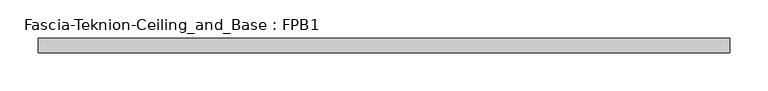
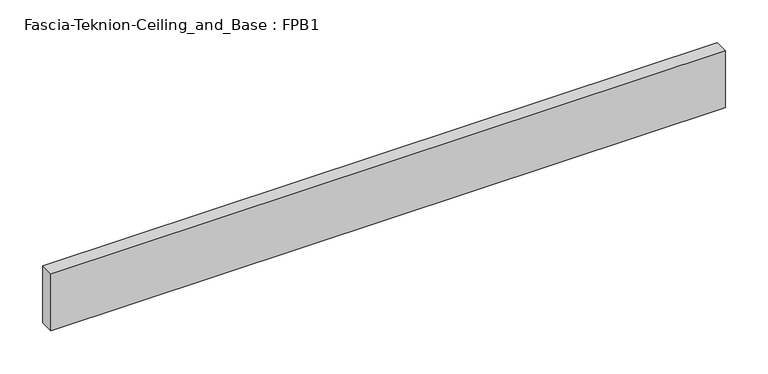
"""IFC4 building model written with IfcOpenShell, lengths in millimetres: proxy geometry, Fascia-Teknion-Ceiling_and_Base : FPB1."""

from ifc_helpers import new_model, si_unit, origin, origin_with_axes, place, context, project, spatial, polyline, outline, extrude, source, transform, mapped, element, save


def fascia_teknion_ceiling_and_base_fpb1_1edef506(model_context):
    return source(origin(), model_context, "Body", "SweptSolid", [
        extrude(outline(polyline([(454.6203125, 0.0), (-454.6203125, 0.0), (-454.6203125, 19.05), (454.6203125, 19.05), (454.6203125, 0.0)])), origin_with_axes(), (0.0, 0.0, 1.0), 81.28),
    ])


if __name__ == "__main__":
    model = new_model("IFC4")
    model_context = context("Model", 3, world=origin())
    ifc_project = project(units=[si_unit("LENGTHUNIT", "METRE", prefix="MILLI")], contexts=[model_context])
    site = spatial("IfcSite", under=ifc_project)
    building = spatial("IfcBuilding", under=site)
    placement = place(None, origin())
    fascia_teknion_ceiling_and_base_fpb1_shape = fascia_teknion_ceiling_and_base_fpb1_1edef506(model_context)
    element("IfcBuildingElementProxy", 1, Name="Fascia-Teknion-Ceiling_and_Base : FPB1", ObjectType="Fascia-Teknion-Ceiling_and_Base : FPB1", at=placement, inside=building, context=model_context, shape_type="MappedRepresentation", body=[
        mapped(fascia_teknion_ceiling_and_base_fpb1_shape, transform((0.0, 0.0, 0.0), x_axis=(1.0, 0.0, 0.0), y_axis=(0.0, 1.0, 0.0), z_axis=(0.0, 0.0, 1.0))),
    ])
    save(model, "model.ifc")
